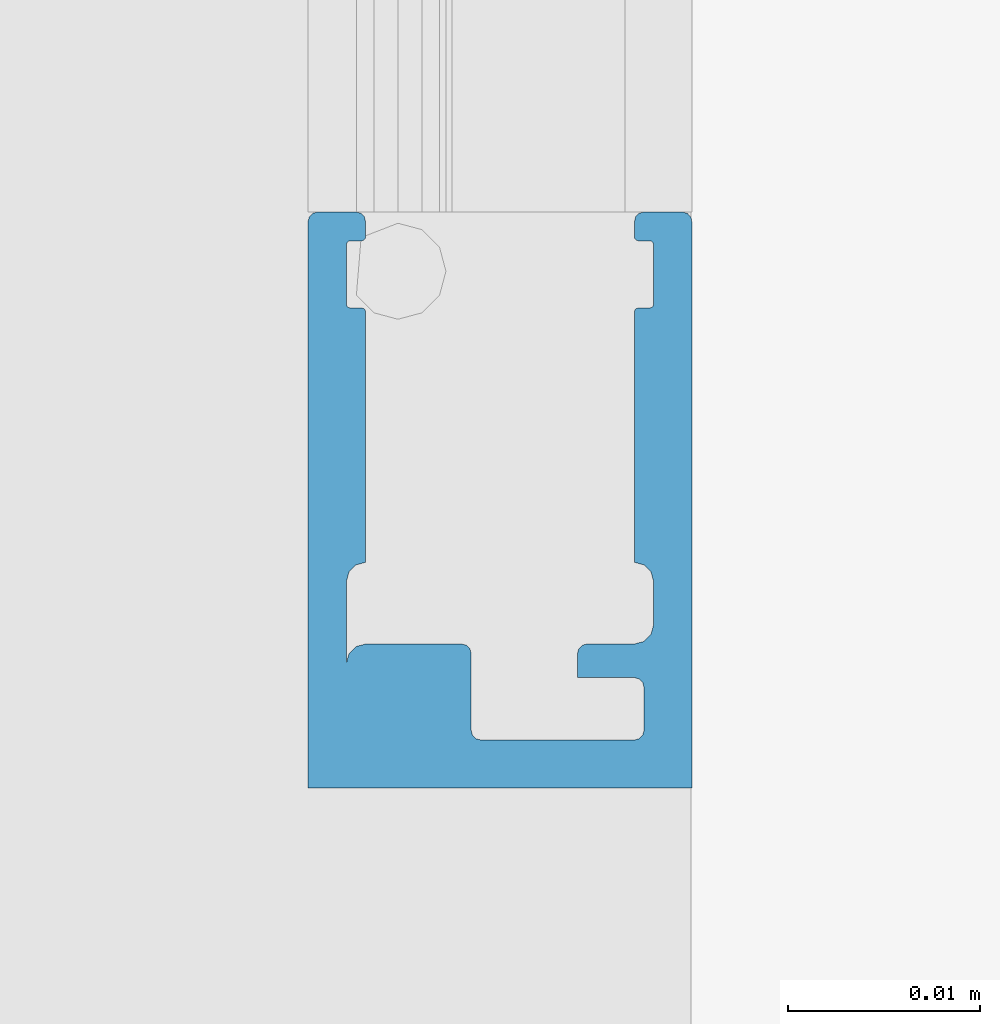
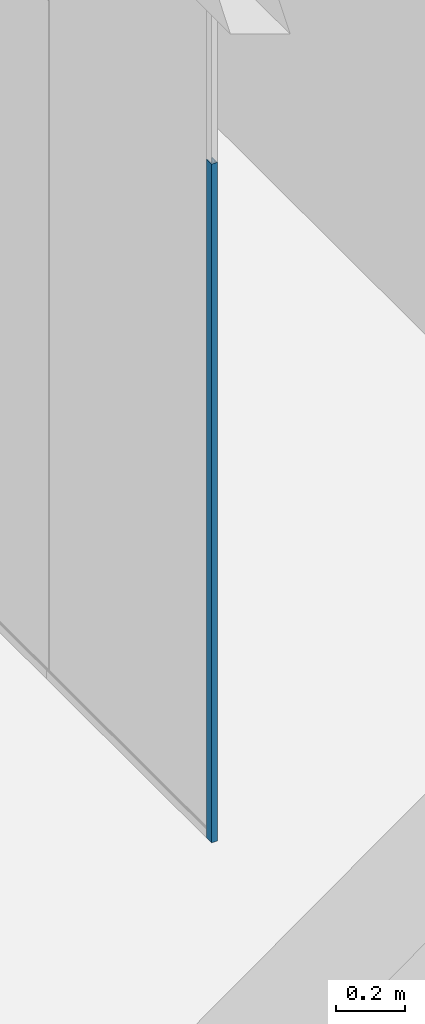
# One storey, part 52 of 387: 1 building element part, 2 elements without a shape of their own.
"""IFC2X3 building model written with IfcOpenShell, lengths in millimetres."""

import ifcopenshell
import ifcopenshell.guid

model = None  # the IFC model being written
_history = None  # IfcOwnerHistory: only IFC2X3 demands one
_inside = {}  # id of a spatial element -> (the spatial element, [elements in it])
_under = {}  # id of a project, library or spatial element -> (it, [spatial elements below it])
_declared = {}  # id of a project -> (the project, [libraries it declares])
_typed = {}  # id of a type object -> (the type object, [elements of that type])
_made_of = {}  # id of a material, layer set ... -> (it, [elements and type objects made of it])


def new_model(schema):
    """Start an empty IFC model of exactly this schema.

    Asked for "IFC4X3", IfcOpenShell would pick the latest addendum, in which some entities
    have other attributes; the version numbers below select the first issue.
    IFC2X3 requires an IfcOwnerHistory on every rooted entity: one is made here for all.
    """
    global model, _history
    if schema == "IFC4X3":
        model = ifcopenshell.file(schema_version=(4, 3, 0, 0))
    else:
        model = ifcopenshell.file(schema=schema)
    _inside.clear()
    _under.clear()
    _declared.clear()
    _typed.clear()
    _made_of.clear()
    _history = None
    if model.schema == "IFC2X3":
        org = make("IfcOrganization", Name="unknown")
        user = make(
            "IfcPersonAndOrganization",
            ThePerson=make("IfcPerson", FamilyName="unknown"),
            TheOrganization=org,
        )
        app = make(
            "IfcApplication",
            ApplicationDeveloper=org,
            Version="unknown",
            ApplicationFullName="unknown",
            ApplicationIdentifier="unknown",
        )
        _history = make(
            "IfcOwnerHistory",
            OwningUser=user,
            OwningApplication=app,
            ChangeAction="ADDED",
            CreationDate=0,
        )
    return model


def make(cls, **values):
    """One entity of the class cls with the attributes given. An attribute that is None is left unset."""
    return model.create_entity(
        cls, **{name: value for name, value in values.items() if value is not None}
    )


def entity(cls, *values):
    """Any entity or typed value of the class cls, its attributes in the order of the schema. None: left unset."""
    e = model.create_entity(cls)
    for i, value in enumerate(values):
        if value is not None:
            e[i] = value
    return e


def rooted(cls, **values):
    """An entity with a GlobalId (a new one), such as an element, a storey or a relation."""
    return make(cls, GlobalId=ifcopenshell.guid.new(), OwnerHistory=_history, **values)


def si_unit(unit_type, name, prefix=None):
    """IfcSIUnit, for example si_unit("LENGTHUNIT", "METRE", prefix="MILLI")."""
    return make("IfcSIUnit", UnitType=unit_type, Prefix=prefix, Name=name)


def converted_unit(unit_type, name, factor, base, dimensions=None, offset=None):
    """IfcConversionBasedUnit, such as the inch: factor (a typed value) times the base unit."""
    return make(
        "IfcConversionBasedUnit"
        if offset is None
        else "IfcConversionBasedUnitWithOffset",
        ConversionOffset=offset,
        Dimensions=None
        if dimensions is None
        else entity("IfcDimensionalExponents", *dimensions),
        UnitType=unit_type,
        Name=name,
        ConversionFactor=make(
            "IfcMeasureWithUnit", ValueComponent=factor, UnitComponent=base
        ),
    )


def derived_unit(unit_type, elements):
    """IfcDerivedUnit: a product of units, each with its exponent."""
    return make(
        "IfcDerivedUnit",
        Elements=[
            make("IfcDerivedUnitElement", Unit=unit, Exponent=power)
            for unit, power in elements
        ],
        UnitType=unit_type,
    )


def money_unit(currency):
    """IfcMonetaryUnit."""
    return make("IfcMonetaryUnit", Currency=currency)


def assignment(units):
    """IfcUnitAssignment: the units of a project."""
    return None if units is None else make("IfcUnitAssignment", Units=units)


def point(xyz):
    """IfcCartesianPoint."""
    return None if xyz is None else make("IfcCartesianPoint", Coordinates=xyz)


def direction(xyz):
    """IfcDirection."""
    return None if xyz is None else make("IfcDirection", DirectionRatios=xyz)


def frame(location, z_axis=None, x_axis=None):
    """IfcAxis2Placement3D, a coordinate frame: its origin and axes. An axis left out is left unset."""
    return make(
        "IfcAxis2Placement3D",
        Location=point(location),
        Axis=direction(z_axis),
        RefDirection=direction(x_axis),
    )


def origin_with_axes():
    """The frame at (0, 0, 0) with the z axis (0, 0, 1) and the x axis (1, 0, 0) written out."""
    return frame((0.0, 0.0, 0.0), z_axis=(0.0, 0.0, 1.0), x_axis=(1.0, 0.0, 0.0))


def place(relative_to, where):
    """IfcLocalPlacement: puts the frame where relative to a parent placement (None: the world)."""
    return make(
        "IfcLocalPlacement", PlacementRelTo=relative_to, RelativePlacement=where
    )


def context(
    kind, dimensions, precision=None, world=None, true_north=None, identifier=None
):
    """IfcGeometricRepresentationContext, for example the 3D "Model" context."""
    return make(
        "IfcGeometricRepresentationContext",
        ContextIdentifier=identifier,
        ContextType=kind,
        CoordinateSpaceDimension=dimensions,
        Precision=precision,
        WorldCoordinateSystem=world,
        TrueNorth=true_north,
    )


def subcontext(parent, identifier, kind, view, scale=None):
    """IfcGeometricRepresentationSubContext, for example "Body" below "Model"."""
    return make(
        "IfcGeometricRepresentationSubContext",
        ContextIdentifier=identifier,
        ContextType=kind,
        ParentContext=parent,
        TargetScale=scale,
        TargetView=view,
    )


def project(units=None, contexts=None):
    """IfcProject with its units and contexts."""
    return rooted(
        "IfcProject",
        Name="project",
        RepresentationContexts=contexts,
        UnitsInContext=assignment(units),
    )


def spatial(cls, under=None, at=None, **own):
    """A site, building, storey or space (cls), placed at a placement, below another one or the project."""
    s = rooted(cls, ObjectPlacement=at, **own)
    if under is not None:
        _under.setdefault(under.id(), (under, []))[1].append(s)
    return s


def faces_of(points, faces, orient=None, outer=None):
    """IfcFace entities. A face is a list of loops; a loop is a list of indices into points, from 0.

    orient and outer hold one flag for each loop. By default every Orientation is true, the
    first loop of a face is its IfcFaceOuterBound and the others are IfcFaceBound.
    """
    made = []
    for i, loops in enumerate(faces):
        bounds = []
        for j, loop in enumerate(loops):
            is_outer = j == 0 if outer is None else outer[i][j]
            bounds.append(
                make(
                    "IfcFaceOuterBound" if is_outer else "IfcFaceBound",
                    Bound=make("IfcPolyLoop", Polygon=[points[k] for k in loop]),
                    Orientation=True if orient is None else orient[i][j],
                )
            )
        made.append(make("IfcFace", Bounds=bounds))
    return made


def faceted_brep(points, faces, orient=None, outer=None, voids=None):
    """IfcFacetedBrep: a solid bounded by flat faces; with voids (closed shells), ...WithVoids."""
    shared = [point(p) for p in points]
    hull = make("IfcClosedShell", CfsFaces=faces_of(shared, faces, orient, outer))
    if voids is None:
        return make("IfcFacetedBrep", Outer=hull)
    return make(
        "IfcFacetedBrepWithVoids",
        Outer=hull,
        Voids=[
            make(cls, CfsFaces=faces_of(shared, fs, o, b)) for cls, fs, o, b in voids
        ],
    )


def shape(context_of_items, identifier, shape_type, items):
    """IfcShapeRepresentation: the items that make up one representation, for example the "Body"."""
    return make(
        "IfcShapeRepresentation",
        ContextOfItems=context_of_items,
        RepresentationIdentifier=identifier,
        RepresentationType=shape_type,
        Items=items,
    )


def source(mapping_origin, context_of_items, identifier, shape_type, items):
    """IfcRepresentationMap: a shape defined once, which mapped items show again and again."""
    return make(
        "IfcRepresentationMap",
        MappingOrigin=mapping_origin,
        MappedRepresentation=shape(context_of_items, identifier, shape_type, items),
    )


def transform(
    local_origin,
    x_axis=None,
    y_axis=None,
    z_axis=None,
    scale=None,
    scale2=None,
    scale3=None,
    uniform=True,
):
    """IfcCartesianTransformationOperator3D, or its non-uniform kind. x_axis, y_axis, z_axis: its Axis1, 2, 3."""
    if uniform:
        return make(
            "IfcCartesianTransformationOperator3D",
            Axis1=direction(x_axis),
            Axis2=direction(y_axis),
            LocalOrigin=point(local_origin),
            Scale=scale,
            Axis3=direction(z_axis),
        )
    return make(
        "IfcCartesianTransformationOperator3DnonUniform",
        Axis1=direction(x_axis),
        Axis2=direction(y_axis),
        LocalOrigin=point(local_origin),
        Scale=scale,
        Axis3=direction(z_axis),
        Scale2=scale2,
        Scale3=scale3,
    )


def mapped(mapping_source, mapping_target):
    """IfcMappedItem: shows the shape of a source again, moved by a transform."""
    return make(
        "IfcMappedItem", MappingSource=mapping_source, MappingTarget=mapping_target
    )


def material(Name=None, Category=None):
    """IfcMaterial."""
    return make("IfcMaterial", Name=Name, Category=Category)


def made_of(thing, what):
    """Note that an element or type object is made of a material, layer set ...; save() writes the relation."""
    if what is not None:
        _made_of.setdefault(what.id(), (what, []))[1].append(thing)
    return thing


def type_object(cls, material=None, **own):
    """A type object (cls), such as IfcWallType, which elements share."""
    return made_of(rooted(cls, **own), material)


def element(
    cls,
    number,
    at=None,
    inside=None,
    cuts=None,
    type_object=None,
    material=None,
    context=None,
    identifier="Body",
    shape_type=None,
    held_by="IfcProductDefinitionShape",
    body=None,
    shapes=None,
    **own,
):
    """One element of the class cls, such as IfcWall. Its Tag is "e" and its number.

    at: its placement. inside: the storey or other place that contains it. cuts: it is an
    opening in that element (IfcRelVoidsElement). A single representation is given by context,
    identifier, shape_type and body (its items); several are given by shapes. held_by: the class
    of the entity that holds the representations. save() writes the other relations.
    """
    e = rooted(cls, Tag="e%d" % number, ObjectPlacement=at, **own)
    if body is not None:
        shapes = [shape(context, identifier, shape_type, body)]
    if shapes is not None:
        e.Representation = make(held_by, Representations=shapes)
    if inside is not None:
        _inside.setdefault(inside.id(), (inside, []))[1].append(e)
    if cuts is not None:
        rooted(
            "IfcRelVoidsElement", RelatingBuildingElement=cuts, RelatedOpeningElement=e
        )
    if type_object is not None:
        _typed.setdefault(type_object.id(), (type_object, []))[1].append(e)
    return made_of(e, material)


def aggregate(whole, parts):
    """IfcRelAggregates: a whole, such as a stair, and the parts it consists of."""
    return rooted("IfcRelAggregates", RelatingObject=whole, RelatedObjects=parts)


def save(model, path):
    """Write the relations noted so far, then the file.

    IfcRelAggregates (storeys below a building ...), IfcRelContainedInSpatialStructure (elements
    in a storey), IfcRelDefinesByType, IfcRelAssociatesMaterial and IfcRelDeclares: one each for
    every whole, place, type object, material and project.
    """
    for whole, parts in _under.values():
        aggregate(whole, parts)
    for where, things in _inside.values():
        rooted(
            "IfcRelContainedInSpatialStructure",
            RelatedElements=things,
            RelatingStructure=where,
        )
    for kind, things in _typed.values():
        rooted("IfcRelDefinesByType", RelatedObjects=things, RelatingType=kind)
    for what, things in _made_of.values():
        rooted("IfcRelAssociatesMaterial", RelatedObjects=things, RelatingMaterial=what)
    for by, libraries in _declared.values():
        rooted("IfcRelDeclares", RelatingContext=by, RelatedDefinitions=libraries)
    model.write(path)


model = new_model("IFC2X3")

# Units and contexts
model_context = context("Model", 3, precision=0.01, world=origin_with_axes(), true_north=direction((0.0, 1.0)))
body_context = subcontext(model_context, "Body", "Model", "MODEL_VIEW")
ifc_project = project(units=[si_unit("LENGTHUNIT", "METRE", prefix="MILLI"), si_unit("AREAUNIT", "SQUARE_METRE"), si_unit("VOLUMEUNIT", "CUBIC_METRE"), converted_unit("PLANEANGLEUNIT", "DEGREE", entity("IfcPlaneAngleMeasure", 0.0174532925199), si_unit("PLANEANGLEUNIT", "RADIAN"), dimensions=[0, 0, 0, 0, 0, 0, 0]), si_unit("SOLIDANGLEUNIT", "STERADIAN"), money_unit("EUR"), converted_unit("TIMEUNIT", "Year", entity("IfcTimeMeasure", 31556926.0), si_unit("TIMEUNIT", "SECOND"), dimensions=[0, 0, 1, 0, 0, 0, 0]), si_unit("MASSUNIT", "GRAM", prefix="KILO"), si_unit("THERMODYNAMICTEMPERATUREUNIT", "DEGREE_CELSIUS"), si_unit("LUMINOUSINTENSITYUNIT", "LUMEN"), si_unit("ENERGYUNIT", "JOULE", prefix="MEGA"), derived_unit("THERMALCONDUCTANCEUNIT", [(si_unit("POWERUNIT", "WATT"), 1), (si_unit("LENGTHUNIT", "METRE"), -1), (si_unit("THERMODYNAMICTEMPERATUREUNIT", "KELVIN"), -1)]), derived_unit("SPECIFICHEATCAPACITYUNIT", [(si_unit("ENERGYUNIT", "JOULE"), 1), (si_unit("MASSUNIT", "GRAM", prefix="KILO"), -1), (si_unit("THERMODYNAMICTEMPERATUREUNIT", "KELVIN"), -1)]), derived_unit("MASSDENSITYUNIT", [(si_unit("MASSUNIT", "GRAM", prefix="KILO"), 1), (si_unit("VOLUMEUNIT", "CUBIC_METRE"), -1)])], contexts=[model_context])

# Site, building, storey
site_placement = place(None, origin_with_axes())
site = spatial("IfcSite", under=ifc_project, at=site_placement, Name="Puškini 31, Narva", CompositionType="ELEMENT")
building_placement = place(site_placement, origin_with_axes())
building = spatial("IfcBuilding", under=site, at=building_placement, Name="Narva Riigigümnaasium", CompositionType="ELEMENT")
storey_placement = place(building_placement, frame((0.0, 0.0, 2640.0), z_axis=(0.0, 0.0, 1.0), x_axis=(1.0, 0.0, 0.0)))
storey = spatial("IfcBuildingStorey", under=building, at=storey_placement, Name="2.korrus +2.64", CompositionType="ELEMENT", Elevation=2640.0)

# Curtain wall, member, building element part
curtain_wall_type = type_object("IfcCurtainWallType", Name="Curtain Wall Type", PredefinedType="NOTDEFINED")
curtain_wall_placement = place(storey_placement, frame((28389.9972784, 170114.499914, -5.2224053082e-05), z_axis=(0.0, 0.0, 1.0), x_axis=(1.0, 0.0, 0.0)))
curtain_wall = element("IfcCurtainWall", 1, at=curtain_wall_placement, inside=storey, type_object=curtain_wall_type, Name="G-SKLF-15.2")
member_type = type_object("IfcMemberType", Name="Boundary Frame 30 x 10", PredefinedType="MULLION")
member_placement = place(curtain_wall_placement, frame((-7.84794451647e-09, -294.500035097, 2400.00005222), z_axis=(0.0, 0.0, -1.0), x_axis=(0.0, 1.0, 0.0)))
member = element("IfcMember", 2, at=member_placement, type_object=member_type, Name="G-SKLF-93-raam", ObjectType="MULLION")
aggregate(curtain_wall, [member])
ifc_material = material(Name="ET-04_Alumiinium")
shared_shape = source(origin_with_axes(), body_context, "Body", "Brep", [
    faceted_brep([(0.0, 9.99999999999, -4.10349964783e-07), (0.0, 9.99999999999, 2400.00005222), (0.0, -9.99999999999, 2400.00005222), (0.0, -9.99999999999, -4.10349964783e-07), (-29.5, 10.0, -4.10349964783e-07), (-29.5, 10.0, 2400.00005222), (-29.75, 9.93301270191, 2400.00005222), (-29.9330127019, 9.75000000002, 2400.00005222), (-30.0, 9.5, 2400.00005222), (-30.0, 7.49999999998, 2400.00005222), (-29.9330127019, 7.24999999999, 2400.00005222), (-29.75, 7.06698729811, 2400.00005222), (-29.5, 7.00000000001, 2400.00005222), (-28.7609519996, 6.99999999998, 2400.00005222), (-28.7, 6.99999999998, 2400.00005222), (-28.6, 7.02679491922, 2400.00005222), (-28.5267949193, 7.09999999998, 2400.00005222), (-28.5, 7.19999999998, 2400.00005222), (-28.5, 7.24760028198, 2400.00005222), (-28.5, 7.76282847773, 2400.00005222), (-28.4849473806, 7.87744178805, 2400.00005222), (-28.4104265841, 7.9658128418, 2400.00005222), (-28.3, 8.00000000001, 2400.00005222), (-25.2, 8.00000000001, 2400.00005222), (-25.1, 7.97320508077, 2400.00005222), (-25.0267949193, 7.90000000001, 2400.00005222), (-25.0, 7.8, 2400.00005222), (-25.0, 7.20000000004, 2400.00005222), (-24.9732050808, 7.10000000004, 2400.00005222), (-24.9, 7.02679491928, 2400.00005222), (-24.8, 7.00000000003, 2400.00005222), (-11.7527616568, 6.99999999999, 2400.00005222), (-11.6187870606, 7.49999999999, 2400.00005222), (-11.2527616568, 7.86602540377, 2400.00005222), (-10.7527616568, 7.99999999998, 2400.00005222), (-6.49999999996, 7.99999999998, 2400.00005222), (-6.99999999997, 7.86602540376, 2400.00005222), (-7.36602540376, 7.49999999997, 2400.00005222), (-7.49999999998, 6.99999999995, 2400.00005222), (-7.49999999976, 2.00000000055, 2400.00005222), (-7.43301270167, 1.75000000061, 2400.00005222), (-7.24999999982, 1.56698729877, 2400.00005222), (-6.99999999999, 1.50000000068, 2400.00005222), (-2.99998847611, 1.50000000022, 2400.00005222), (-2.75096907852, 1.43357737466, 2400.00005222), (-2.56811176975, 1.25195735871, 2400.00005222), (-2.5, 1.00339466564, 2400.00005222), (-2.5, -6.99999999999, 2400.00005222), (-2.56698729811, -7.24999999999, 2400.00005222), (-2.75, -7.43301270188, 2400.00005222), (-3.0, -7.49999999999, 2400.00005222), (-5.24723834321, -7.49999999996, 2400.00005222), (-5.49723834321, -7.43301270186, 2400.00005222), (-5.6802510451, -7.24999999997, 2400.00005222), (-5.7472383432, -6.99999999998, 2400.00005222), (-5.74723834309, -4.03369212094, 2400.00005222), (-7.0, -4.03369212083, 2400.00005222), (-7.24999999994, -4.10067941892, 2400.00005222), (-7.43301270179, -4.28369212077, 2400.00005222), (-7.49999999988, -4.5336921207, 2400.00005222), (-7.49999999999, -7.00000000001, 2400.00005222), (-7.63397459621, -7.50000000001, 2400.00005222), (-7.99999999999, -7.86602540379, 2400.00005222), (-8.49999999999, -8.00000000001, 2400.00005222), (-10.7527616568, -7.99999999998, 2400.00005222), (-11.2527616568, -7.86602540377, 2400.00005222), (-11.6187870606, -7.49999999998, 2400.00005222), (-11.7527616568, -6.99999999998, 2400.00005222), (-24.8, -7.00000000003, 2400.00005222), (-24.9, -7.02679491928, 2400.00005222), (-24.9732050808, -7.10000000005, 2400.00005222), (-25.0, -7.20000000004, 2400.00005222), (-25.0, -7.79999999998, 2400.00005222), (-25.0267949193, -7.89999999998, 2400.00005222), (-25.1, -7.97320508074, 2400.00005222), (-25.2, -7.99999999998, 2400.00005222), (-28.3, -7.99999999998, 2400.00005222), (-28.4, -7.97320508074, 2400.00005222), (-28.4732050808, -7.89999999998, 2400.00005222), (-28.5, -7.79999999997, 2400.00005222), (-28.5, -7.19999999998, 2400.00005222), (-28.5267949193, -7.09999999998, 2400.00005222), (-28.6, -7.02679491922, 2400.00005222), (-28.7, -6.99999999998, 2400.00005222), (-29.5, -6.99999999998, 2400.00005222), (-29.75, -7.06698729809, 2400.00005222), (-29.9330127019, -7.24999999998, 2400.00005222), (-30.0, -7.49999999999, 2400.00005222), (-30.0, -9.5, 2400.00005222), (-29.9224245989, -9.76651288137, 2400.00005222), (-29.7157683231, -9.95182408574, 2400.00005222), (-29.4424074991, -9.99999999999, 2400.00005222), (-29.4424074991, -9.99999999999, -4.10349964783e-07), (-29.7157683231, -9.95182408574, -4.10349964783e-07), (-29.9224245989, -9.76651288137, -4.10349964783e-07), (-30.0, -9.5, -4.10349964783e-07), (-30.0, -7.49999999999, -4.10349964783e-07), (-29.9330127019, -7.24999999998, -4.10349964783e-07), (-29.75, -7.06698729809, -4.10349964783e-07), (-29.5, -6.99999999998, -4.10349964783e-07), (-28.7, -6.99999999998, -4.10349964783e-07), (-28.6, -7.02679491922, -4.10349964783e-07), (-28.5267949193, -7.09999999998, -4.10349964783e-07), (-28.5, -7.19999999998, -4.10349964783e-07), (-28.5, -7.79999999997, -4.10349964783e-07), (-28.4732050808, -7.89999999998, -4.10349964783e-07), (-28.4, -7.97320508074, -4.10349964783e-07), (-28.3, -7.99999999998, -4.10349964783e-07), (-25.2, -7.99999999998, -4.10349964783e-07), (-25.1, -7.97320508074, -4.10349964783e-07), (-25.0267949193, -7.89999999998, -4.10349964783e-07), (-25.0, -7.79999999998, -4.10349964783e-07), (-25.0, -7.20000000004, -4.10349964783e-07), (-24.9732050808, -7.10000000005, -4.10349964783e-07), (-24.9, -7.02679491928, -4.10349964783e-07), (-24.8, -7.00000000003, -4.10349964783e-07), (-11.7527616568, -6.99999999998, -4.10349964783e-07), (-11.6187870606, -7.49999999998, -4.10349964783e-07), (-11.2527616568, -7.86602540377, -4.10349964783e-07), (-10.7527616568, -7.99999999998, -4.10349964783e-07), (-8.49999999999, -8.00000000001, -4.10349964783e-07), (-7.99999999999, -7.86602540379, -4.10349964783e-07), (-7.63397459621, -7.50000000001, -4.10349964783e-07), (-7.49999999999, -7.00000000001, -4.10349964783e-07), (-7.49999999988, -4.5336921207, -4.10349964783e-07), (-7.43301270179, -4.28369212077, -4.10349964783e-07), (-7.24999999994, -4.10067941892, -4.10349964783e-07), (-7.0, -4.03369212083, -4.10349964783e-07), (-5.74723834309, -4.03369212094, -4.10349964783e-07), (-5.7472383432, -6.99999999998, -4.10349964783e-07), (-5.6802510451, -7.24999999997, -4.10349964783e-07), (-5.49723834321, -7.43301270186, -4.10349964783e-07), (-5.24723834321, -7.49999999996, -4.10349964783e-07), (-3.0, -7.49999999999, -4.10349964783e-07), (-2.75, -7.43301270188, -4.10349964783e-07), (-2.56698729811, -7.24999999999, -4.10349964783e-07), (-2.5, -6.99999999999, -4.10349964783e-07), (-2.5, 1.00339466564, -4.10349964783e-07), (-2.56811176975, 1.25195735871, -4.10349964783e-07), (-2.75096907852, 1.43357737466, -4.10349964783e-07), (-2.99998847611, 1.50000000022, -4.10349964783e-07), (-6.99999999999, 1.50000000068, -4.10349964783e-07), (-7.24999999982, 1.56698729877, -4.10349964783e-07), (-7.43301270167, 1.75000000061, -4.10349964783e-07), (-7.49999999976, 2.00000000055, -4.10349964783e-07), (-7.49999999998, 6.99999999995, -4.10349964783e-07), (-7.36602540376, 7.49999999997, -4.10349964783e-07), (-6.99999999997, 7.86602540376, -4.10349964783e-07), (-6.49999999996, 7.99999999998, -4.10349964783e-07), (-10.7527616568, 7.99999999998, -4.10349964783e-07), (-11.2527616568, 7.86602540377, -4.10349964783e-07), (-11.6187870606, 7.49999999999, -4.10349964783e-07), (-11.7527616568, 6.99999999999, -4.10349964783e-07), (-24.8, 7.00000000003, -4.10349964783e-07), (-24.9, 7.02679491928, -4.10349964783e-07), (-24.9732050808, 7.10000000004, -4.10349964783e-07), (-25.0, 7.20000000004, -4.10349964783e-07), (-25.0, 7.8, -4.10349964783e-07), (-25.0267949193, 7.90000000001, -4.10349964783e-07), (-25.1, 7.97320508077, -4.10349964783e-07), (-25.2, 8.00000000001, -4.10349964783e-07), (-28.3, 8.00000000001, -4.10349964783e-07), (-28.4104265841, 7.9658128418, -4.10349964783e-07), (-28.4849473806, 7.87744178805, -4.10349964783e-07), (-28.5, 7.76282847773, -4.10349964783e-07), (-28.5, 7.24760028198, -4.10349964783e-07), (-28.5, 7.19999999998, -4.10349964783e-07), (-28.5267949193, 7.09999999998, -4.10349964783e-07), (-28.6, 7.02679491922, -4.10349964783e-07), (-28.7, 6.99999999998, -4.10349964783e-07), (-28.7609519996, 6.99999999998, -4.10349964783e-07), (-29.5, 7.00000000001, -4.10349964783e-07), (-29.75, 7.06698729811, -4.10349964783e-07), (-29.9330127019, 7.24999999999, -4.10349964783e-07), (-30.0, 7.49999999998, -4.10349964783e-07), (-30.0, 9.5, -4.10349964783e-07), (-29.9330127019, 9.75000000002, -4.10349964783e-07), (-29.75, 9.93301270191, -4.10349964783e-07)], [[[0, 1, 2, 3]], [[4, 5, 1, 0]], [[1, 5, 6, 7, 8, 9, 10, 11, 12, 13, 14, 15, 16, 17, 18, 19, 20, 21, 22, 23, 24, 25, 26, 27, 28, 29, 30, 31, 32, 33, 34, 35, 36, 37, 38, 39, 40, 41, 42, 43, 44, 45, 46, 47, 48, 49, 50, 51, 52, 53, 54, 55, 56, 57, 58, 59, 60, 61, 62, 63, 64, 65, 66, 67, 68, 69, 70, 71, 72, 73, 74, 75, 76, 77, 78, 79, 80, 81, 82, 83, 84, 85, 86, 87, 88, 89, 90, 91, 2]], [[3, 2, 91, 92]], [[0, 3, 92, 93, 94, 95, 96, 97, 98, 99, 100, 101, 102, 103, 104, 105, 106, 107, 108, 109, 110, 111, 112, 113, 114, 115, 116, 117, 118, 119, 120, 121, 122, 123, 124, 125, 126, 127, 128, 129, 130, 131, 132, 133, 134, 135, 136, 137, 138, 139, 140, 141, 142, 143, 144, 145, 146, 147, 148, 149, 150, 151, 152, 153, 154, 155, 156, 157, 158, 159, 160, 161, 162, 163, 164, 165, 166, 167, 168, 169, 170, 171, 172, 173, 174, 175, 176, 177, 4]], [[177, 6, 5, 4]], [[176, 7, 6, 177]], [[175, 8, 7, 176]], [[174, 9, 8, 175]], [[173, 10, 9, 174]], [[172, 11, 10, 173]], [[171, 12, 11, 172]], [[170, 13, 12, 171]], [[169, 14, 13, 170]], [[168, 15, 14, 169]], [[167, 16, 15, 168]], [[166, 17, 16, 167]], [[165, 18, 17, 166]], [[164, 19, 18, 165]], [[163, 20, 19, 164]], [[162, 21, 20, 163]], [[161, 22, 21, 162]], [[160, 23, 22, 161]], [[159, 24, 23, 160]], [[158, 25, 24, 159]], [[157, 26, 25, 158]], [[156, 27, 26, 157]], [[155, 28, 27, 156]], [[154, 29, 28, 155]], [[153, 30, 29, 154]], [[152, 31, 30, 153]], [[151, 32, 31, 152]], [[150, 33, 32, 151]], [[149, 34, 33, 150]], [[148, 35, 34, 149]], [[147, 36, 35, 148]], [[146, 37, 36, 147]], [[145, 38, 37, 146]], [[144, 39, 38, 145]], [[143, 40, 39, 144]], [[142, 41, 40, 143]], [[141, 42, 41, 142]], [[140, 43, 42, 141]], [[139, 44, 43, 140]], [[138, 45, 44, 139]], [[137, 46, 45, 138]], [[136, 47, 46, 137]], [[135, 48, 47, 136]], [[134, 49, 48, 135]], [[133, 50, 49, 134]], [[132, 51, 50, 133]], [[131, 52, 51, 132]], [[130, 53, 52, 131]], [[129, 54, 53, 130]], [[128, 55, 54, 129]], [[127, 56, 55, 128]], [[126, 57, 56, 127]], [[125, 58, 57, 126]], [[124, 59, 58, 125]], [[123, 60, 59, 124]], [[122, 61, 60, 123]], [[121, 62, 61, 122]], [[120, 63, 62, 121]], [[119, 64, 63, 120]], [[118, 65, 64, 119]], [[117, 66, 65, 118]], [[116, 67, 66, 117]], [[115, 68, 67, 116]], [[114, 69, 68, 115]], [[113, 70, 69, 114]], [[112, 71, 70, 113]], [[111, 72, 71, 112]], [[110, 73, 72, 111]], [[109, 74, 73, 110]], [[108, 75, 74, 109]], [[107, 76, 75, 108]], [[106, 77, 76, 107]], [[105, 78, 77, 106]], [[104, 79, 78, 105]], [[103, 80, 79, 104]], [[102, 81, 80, 103]], [[101, 82, 81, 102]], [[100, 83, 82, 101]], [[99, 84, 83, 100]], [[98, 85, 84, 99]], [[97, 86, 85, 98]], [[96, 87, 86, 97]], [[95, 88, 87, 96]], [[94, 89, 88, 95]], [[93, 90, 89, 94]], [[92, 91, 90, 93]]]),
])
building_element_part_placement = place(member_placement, origin_with_axes())
building_element_part = element("IfcBuildingElementPart", 3, at=building_element_part_placement, material=ifc_material, Name="ET-04_Alumiinium", context=body_context, shape_type="MappedRepresentation", body=[
    mapped(shared_shape, transform((0.0, 0.0, 0.0), x_axis=(-1.0, 0.0, 0.0), y_axis=(0.0, -1.0, 0.0), z_axis=(0.0, 0.0, 1.0))),
])
aggregate(member, [building_element_part])

save(model, "model.ifc")
